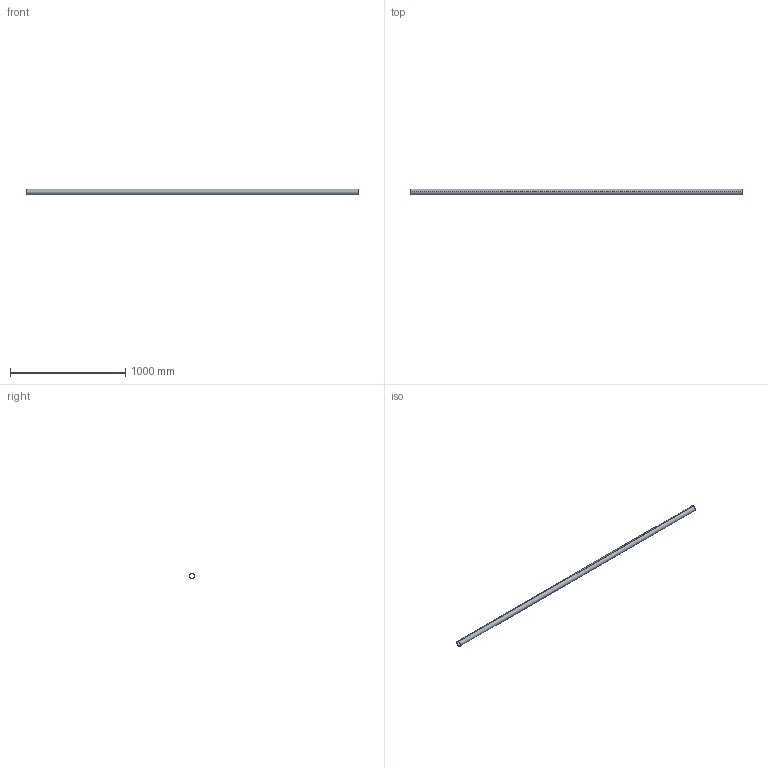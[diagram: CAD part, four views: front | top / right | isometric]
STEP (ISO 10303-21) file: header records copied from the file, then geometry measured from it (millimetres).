
FILE_DESCRIPTION (( 'STEP AP214' ), '1' );
FILE_NAME ('CCJ029-REP.313 - MAIN COURANTE PLATEFORME INFERIEURE C1-C2.STEP', '2024-01-31T09:56:04', ( '' ), ( '' ), 'SwSTEP 2.0', 'SolidWorks 2021', '' );
FILE_SCHEMA (( 'AUTOMOTIVE_DESIGN' ));
Length unit declared in the file: millimetre
Products named in the file (1): CCJ029-REP.313 - MAIN COURANTE PLATEFORME INFERIEURE C1-C2
Bounding box: 2880 x 48.3 x 48.3 mm (x, y, z)
Volume: 1035971.6 mm3; surface area: 829496.7 mm2
Topology: 1 solids, 1 shells, 6 faces, 12 edges, 8 vertices
Faces by surface type: cylinder 4, plane 2
Entity records: 202 total; most frequent: DIRECTION 34, CARTESIAN_POINT 27, ORIENTED_EDGE 24, AXIS2_PLACEMENT_3D 15, EDGE_CURVE 12, CIRCLE 8, EDGE_LOOP 8, VERTEX_POINT 8
